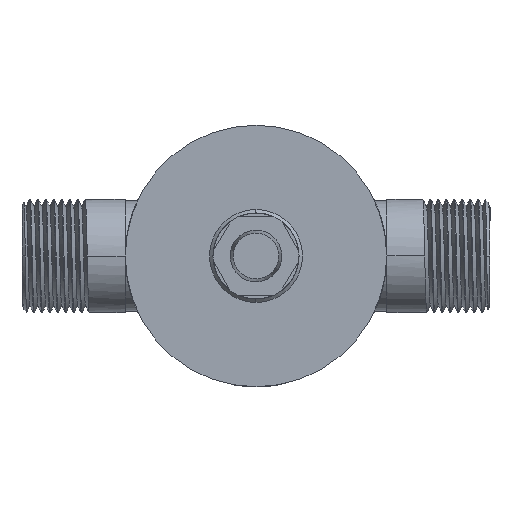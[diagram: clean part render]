
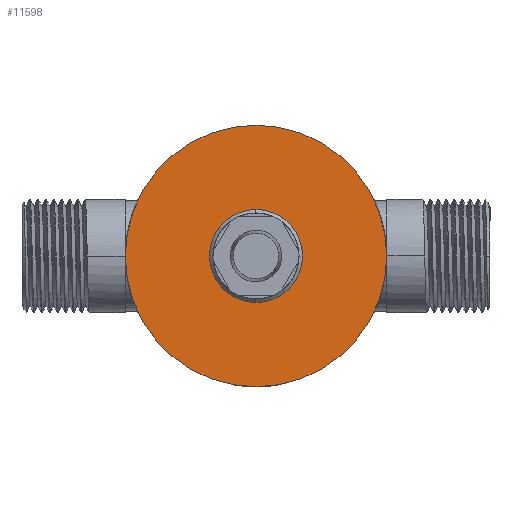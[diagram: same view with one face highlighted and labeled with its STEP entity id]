
A CAD part, left-side view. The second image highlights one B-rep face of the part: STEP entity #11598.
In plain terms, the highlighted planar face has unit normal (-1, 0, 0) as drawn and (0, 0, -1) by its records, which use the part's own axes.
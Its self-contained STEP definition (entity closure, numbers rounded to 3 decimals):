
#363 = FACE_BOUND ( 'NONE', #40859, .T. ) ;
#2637 = AXIS2_PLACEMENT_3D ( 'NONE', #52323, #5951, #28187 ) ;
#5596 = PLANE ( 'NONE',  #19201 ) ;
#5951 = DIRECTION ( 'NONE',  ( 0., 0., 1. ) ) ;
#6091 = CARTESIAN_POINT ( 'NONE',  ( -12.25, 0., 0. ) ) ;
#9844 = DIRECTION ( 'NONE',  ( 0., 0., 1. ) ) ;
#11598 = ADVANCED_FACE ( 'N', ( #363, #34992 ), #5596, .F. ) ;
#13814 = EDGE_CURVE ( 'NONE', #57951, #44614, #23989, .T. ) ;
#16468 = AXIS2_PLACEMENT_3D ( 'NONE', #50958, #9844, #21537 ) ;
#19201 = AXIS2_PLACEMENT_3D ( 'NONE', #46309, #52348, #40659 ) ;
#20001 = VERTEX_POINT ( 'NONE', #32916 ) ;
#21537 = DIRECTION ( 'NONE',  ( -1., 0., 0. ) ) ;
#21787 = CARTESIAN_POINT ( 'NONE',  ( 0., 0., 0. ) ) ;
#22891 = EDGE_CURVE ( 'NONE', #44614, #57951, #26046, .T. ) ;
#23989 = CIRCLE ( 'NONE', #33607, 38. ) ;
#26046 = CIRCLE ( 'NONE', #16468, 38. ) ;
#27635 = AXIS2_PLACEMENT_3D ( 'NONE', #51079, #51826, #74117 ) ;
#28187 = DIRECTION ( 'NONE',  ( -1., 0., 0. ) ) ;
#32052 = VERTEX_POINT ( 'NONE', #6091 ) ;
#32916 = CARTESIAN_POINT ( 'NONE',  ( 12.25, 0., 0. ) ) ;
#33607 = AXIS2_PLACEMENT_3D ( 'NONE', #21787, #50462, #62168 ) ;
#34061 = ORIENTED_EDGE ( 'NONE', *, *, #22891, .F. ) ;
#34992 = FACE_OUTER_BOUND ( 'NONE', #61271, .T. ) ;
#35235 = ORIENTED_EDGE ( 'NONE', *, *, #13814, .F. ) ;
#36772 = ORIENTED_EDGE ( 'NONE', *, *, #67347, .T. ) ;
#40445 = ORIENTED_EDGE ( 'NONE', *, *, #68812, .T. ) ;
#40659 = DIRECTION ( 'NONE',  ( 1., 0., 0. ) ) ;
#40859 = EDGE_LOOP ( 'NONE', ( #36772, #40445 ) ) ;
#44614 = VERTEX_POINT ( 'NONE', #69254 ) ;
#46309 = CARTESIAN_POINT ( 'NONE',  ( 0., 0., 0. ) ) ;
#50462 = DIRECTION ( 'NONE',  ( 0., 0., 1. ) ) ;
#50958 = CARTESIAN_POINT ( 'NONE',  ( 0., 0., 0. ) ) ;
#51079 = CARTESIAN_POINT ( 'NONE',  ( 0., 0., 0. ) ) ;
#51826 = DIRECTION ( 'NONE',  ( 0., 0., 1. ) ) ;
#52323 = CARTESIAN_POINT ( 'NONE',  ( 0., 0., 0. ) ) ;
#52348 = DIRECTION ( 'NONE',  ( 0., 0., 1. ) ) ;
#57951 = VERTEX_POINT ( 'NONE', #63894 ) ;
#58036 = CIRCLE ( 'NONE', #2637, 12.25 ) ;
#61271 = EDGE_LOOP ( 'NONE', ( #34061, #35235 ) ) ;
#62168 = DIRECTION ( 'NONE',  ( -1., 0., 0. ) ) ;
#63894 = CARTESIAN_POINT ( 'NONE',  ( 38., 0., 0. ) ) ;
#67347 = EDGE_CURVE ( 'NONE', #32052, #20001, #69842, .T. ) ;
#68812 = EDGE_CURVE ( 'NONE', #20001, #32052, #58036, .T. ) ;
#69254 = CARTESIAN_POINT ( 'NONE',  ( -38., 0., 0. ) ) ;
#69842 = CIRCLE ( 'NONE', #27635, 12.25 ) ;
#74117 = DIRECTION ( 'NONE',  ( -1., 0., 0. ) ) ;
